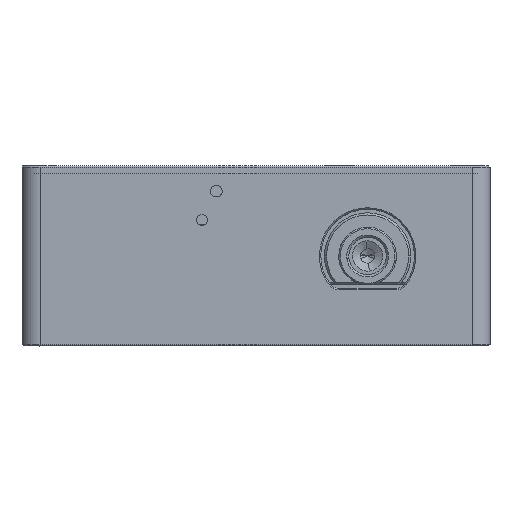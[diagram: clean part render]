
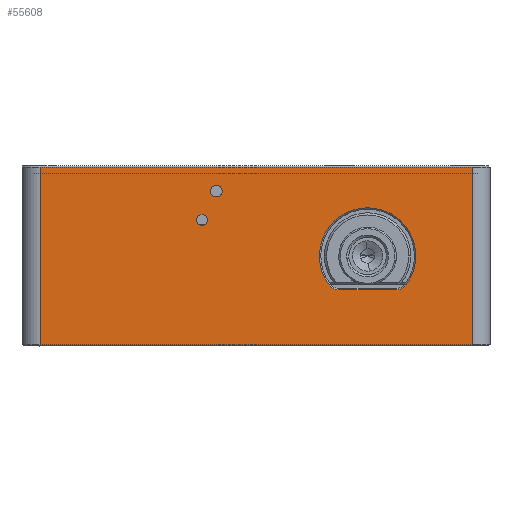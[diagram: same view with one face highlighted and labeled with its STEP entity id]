
A CAD part, front view. The second image highlights one B-rep face of the part: STEP entity #55608.
In plain terms, the highlighted planar face has unit normal (0, -1, 0).
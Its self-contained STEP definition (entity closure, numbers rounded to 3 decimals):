
#49756=DIRECTION('',(0.,0.,-1.));
#49757=VECTOR('',#49756,24.6);
#49758=CARTESIAN_POINT('',(30.,-90.,24.8));
#49759=LINE('',#49758,#49757);
#49764=CARTESIAN_POINT('',(11.5,-90.,9.5));
#49765=DIRECTION('',(0.,1.,0.));
#49766=DIRECTION('',(0.,0.,-1.));
#49767=AXIS2_PLACEMENT_3D('',#49764,#49765,#49766);
#49769=CARTESIAN_POINT('',(19.5,-90.,9.5));
#49770=DIRECTION('',(0.,1.,0.));
#49771=DIRECTION('',(0.8,0.,-0.6));
#49772=AXIS2_PLACEMENT_3D('',#49769,#49770,#49771);
#49774=CARTESIAN_POINT('',(15.5,-90.,12.5));
#49775=DIRECTION('',(0.,1.,0.));
#49776=DIRECTION('',(-0.8,0.,-0.6));
#49777=AXIS2_PLACEMENT_3D('',#49774,#49775,#49776);
#49779=CARTESIAN_POINT('',(-5.5,-90.,21.5));
#49780=DIRECTION('',(0.,1.,0.));
#49781=DIRECTION('',(0.,0.,1.));
#49782=AXIS2_PLACEMENT_3D('',#49779,#49780,#49781);
#49784=CARTESIAN_POINT('',(-5.5,-90.,21.5));
#49785=DIRECTION('',(0.,1.,0.));
#49786=DIRECTION('',(0.,0.,-1.));
#49787=AXIS2_PLACEMENT_3D('',#49784,#49785,#49786);
#49789=CARTESIAN_POINT('',(-7.5,-90.,17.5));
#49790=DIRECTION('',(0.,1.,0.));
#49791=DIRECTION('',(0.,0.,1.));
#49792=AXIS2_PLACEMENT_3D('',#49789,#49790,#49791);
#49794=CARTESIAN_POINT('',(-7.5,-90.,17.5));
#49795=DIRECTION('',(0.,1.,0.));
#49796=DIRECTION('',(0.,0.,-1.));
#49797=AXIS2_PLACEMENT_3D('',#49794,#49795,#49796);
#49803=DIRECTION('',(0.,0.,1.));
#49804=VECTOR('',#49803,24.6);
#49805=CARTESIAN_POINT('',(-30.,-90.,0.2));
#49806=LINE('',#49805,#49804);
#49820=DIRECTION('',(1.,0.,0.));
#49821=VECTOR('',#49820,60.);
#49822=CARTESIAN_POINT('',(-30.,-90.,24.8));
#49823=LINE('',#49822,#49821);
#49912=DIRECTION('',(-1.,0.,0.));
#49913=VECTOR('',#49912,60.);
#49914=CARTESIAN_POINT('',(30.,-90.,0.2));
#49915=LINE('',#49914,#49913);
#51503=DIRECTION('',(1.,0.,0.));
#51504=VECTOR('',#51503,8.);
#51505=CARTESIAN_POINT('',(11.5,-90.,7.8));
#51506=LINE('',#51505,#51504);
#53422=CARTESIAN_POINT('',(20.86,-90.,8.48));
#53423=CARTESIAN_POINT('',(19.5,-90.,7.8));
#53424=VERTEX_POINT('',#53422);
#53425=VERTEX_POINT('',#53423);
#53529=CARTESIAN_POINT('',(-30.,-90.,0.2));
#53531=VERTEX_POINT('',#53529);
#53536=CARTESIAN_POINT('',(-30.,-90.,24.8));
#53537=CARTESIAN_POINT('',(30.,-90.,24.8));
#53538=VERTEX_POINT('',#53536);
#53539=VERTEX_POINT('',#53537);
#53605=CARTESIAN_POINT('',(-7.5,-90.,18.3));
#53607=VERTEX_POINT('',#53605);
#53824=CARTESIAN_POINT('',(11.5,-90.,7.8));
#53826=VERTEX_POINT('',#53824);
#53888=CARTESIAN_POINT('',(-5.5,-90.,22.3));
#53889=CARTESIAN_POINT('',(-5.5,-90.,20.7));
#53890=VERTEX_POINT('',#53888);
#53891=VERTEX_POINT('',#53889);
#53950=CARTESIAN_POINT('',(10.14,-90.,8.48));
#53951=VERTEX_POINT('',#53950);
#54073=CARTESIAN_POINT('',(-7.5,-90.,16.7));
#54074=VERTEX_POINT('',#54073);
#54094=CARTESIAN_POINT('',(30.,-90.,0.2));
#54095=VERTEX_POINT('',#54094);
#55572=CARTESIAN_POINT('',(-32.5,-90.,25.));
#55573=DIRECTION('',(0.,1.,0.));
#55574=DIRECTION('',(0.,0.,1.));
#55575=AXIS2_PLACEMENT_3D('',#55572,#55573,#55574);
#55576=PLANE('',#55575);
#55578=ORIENTED_EDGE('',*,*,#55577,.T.);
#55580=ORIENTED_EDGE('',*,*,#55579,.T.);
#55581=ORIENTED_EDGE('',*,*,#55562,.T.);
#55583=ORIENTED_EDGE('',*,*,#55582,.T.);
#55584=EDGE_LOOP('',(#55578,#55580,#55581,#55583));
#55585=FACE_OUTER_BOUND('',#55584,.F.);
#55587=ORIENTED_EDGE('',*,*,#55586,.F.);
#55589=ORIENTED_EDGE('',*,*,#55588,.T.);
#55591=ORIENTED_EDGE('',*,*,#55590,.F.);
#55593=ORIENTED_EDGE('',*,*,#55592,.F.);
#55594=EDGE_LOOP('',(#55587,#55589,#55591,#55593));
#55595=FACE_BOUND('',#55594,.F.);
#55597=ORIENTED_EDGE('',*,*,#55596,.F.);
#55599=ORIENTED_EDGE('',*,*,#55598,.F.);
#55600=EDGE_LOOP('',(#55597,#55599));
#55601=FACE_BOUND('',#55600,.F.);
#55603=ORIENTED_EDGE('',*,*,#55602,.F.);
#55605=ORIENTED_EDGE('',*,*,#55604,.F.);
#55606=EDGE_LOOP('',(#55603,#55605));
#55607=FACE_BOUND('',#55606,.F.);
#49768=CIRCLE('',#49767,1.7);
#49773=CIRCLE('',#49772,1.7);
#49778=CIRCLE('',#49777,6.7);
#49783=CIRCLE('',#49782,0.8);
#49788=CIRCLE('',#49787,0.8);
#49793=CIRCLE('',#49792,0.8);
#49798=CIRCLE('',#49797,0.8);
#55562=EDGE_CURVE('',#53539,#54095,#49759,.T.);
#55577=EDGE_CURVE('',#53531,#53538,#49806,.T.);
#55579=EDGE_CURVE('',#53538,#53539,#49823,.T.);
#55582=EDGE_CURVE('',#54095,#53531,#49915,.T.);
#55586=EDGE_CURVE('',#53826,#53951,#49768,.T.);
#55588=EDGE_CURVE('',#53826,#53425,#51506,.T.);
#55590=EDGE_CURVE('',#53424,#53425,#49773,.T.);
#55592=EDGE_CURVE('',#53951,#53424,#49778,.T.);
#55596=EDGE_CURVE('',#53890,#53891,#49783,.T.);
#55598=EDGE_CURVE('',#53891,#53890,#49788,.T.);
#55602=EDGE_CURVE('',#53607,#54074,#49793,.T.);
#55604=EDGE_CURVE('',#54074,#53607,#49798,.T.);
#55608=ADVANCED_FACE('',(#55585,#55595,#55601,#55607),#55576,.F.);
